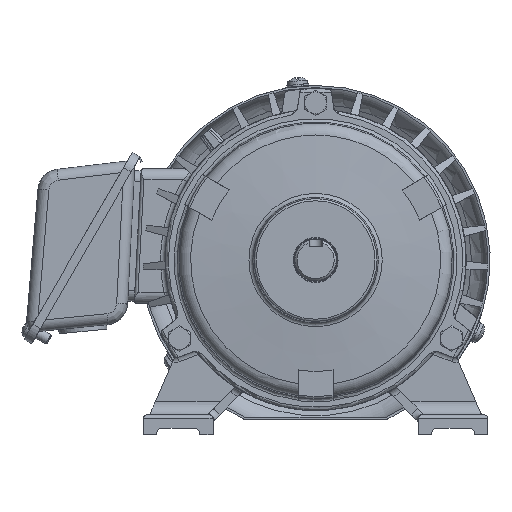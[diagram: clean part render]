
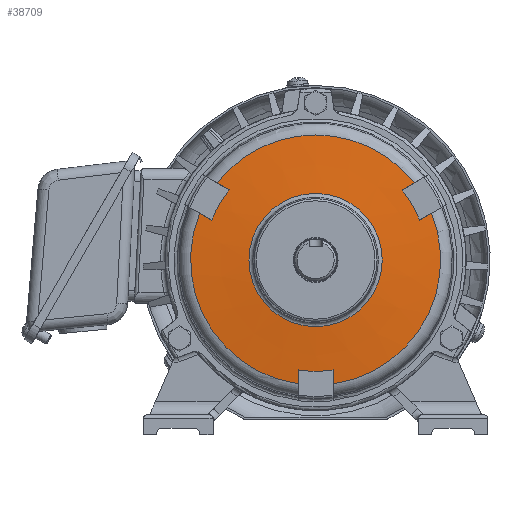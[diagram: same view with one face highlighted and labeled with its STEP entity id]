
A CAD part, front view. The second image highlights one B-rep face of the part: STEP entity #38709.
In plain terms, the highlighted conical face has half-angle 84.806 degrees and reference radius 62 mm.
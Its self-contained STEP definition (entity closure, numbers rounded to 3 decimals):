
#782=CONICAL_SURFACE('',#41251,62.,1.48);
#1971=B_SPLINE_CURVE_WITH_KNOTS('',3,(#59531,#59532,#59533,#59534),
 .UNSPECIFIED.,.F.,.F.,(4,4),(0.,1.),.PIECEWISE_BEZIER_KNOTS.);
#1972=B_SPLINE_CURVE_WITH_KNOTS('',3,(#59539,#59540,#59541,#59542),
 .UNSPECIFIED.,.F.,.F.,(4,4),(0.,1.),.PIECEWISE_BEZIER_KNOTS.);
#1973=B_SPLINE_CURVE_WITH_KNOTS('',3,(#59546,#59547,#59548,#59549),
 .UNSPECIFIED.,.F.,.F.,(4,4),(0.,1.),.PIECEWISE_BEZIER_KNOTS.);
#1974=B_SPLINE_CURVE_WITH_KNOTS('',3,(#59553,#59554,#59555,#59556),
 .UNSPECIFIED.,.F.,.F.,(4,4),(0.,1.),.PIECEWISE_BEZIER_KNOTS.);
#1975=B_SPLINE_CURVE_WITH_KNOTS('',3,(#59560,#59561,#59562,#59563),
 .UNSPECIFIED.,.F.,.F.,(4,4),(0.,1.),.PIECEWISE_BEZIER_KNOTS.);
#1976=B_SPLINE_CURVE_WITH_KNOTS('',3,(#59567,#59568,#59569,#59570),
 .UNSPECIFIED.,.F.,.F.,(4,4),(0.,1.),.PIECEWISE_BEZIER_KNOTS.);
#8893=ORIENTED_EDGE('',*,*,#18980,.T.);
#8894=ORIENTED_EDGE('',*,*,#18981,.F.);
#8895=ORIENTED_EDGE('',*,*,#18982,.T.);
#8896=ORIENTED_EDGE('',*,*,#18983,.F.);
#8897=ORIENTED_EDGE('',*,*,#18984,.F.);
#8898=ORIENTED_EDGE('',*,*,#18985,.F.);
#8899=ORIENTED_EDGE('',*,*,#18986,.T.);
#8900=ORIENTED_EDGE('',*,*,#18987,.F.);
#8901=ORIENTED_EDGE('',*,*,#18988,.F.);
#8902=ORIENTED_EDGE('',*,*,#18989,.F.);
#8903=ORIENTED_EDGE('',*,*,#18990,.T.);
#8904=ORIENTED_EDGE('',*,*,#18991,.F.);
#8905=ORIENTED_EDGE('',*,*,#18992,.F.);
#18980=EDGE_CURVE('',#24156,#24156,#27458,.T.);
#18981=EDGE_CURVE('',#24157,#24158,#1971,.T.);
#18982=EDGE_CURVE('',#24157,#24159,#27459,.T.);
#18983=EDGE_CURVE('',#24160,#24159,#1972,.T.);
#18984=EDGE_CURVE('',#24161,#24160,#27460,.T.);
#18985=EDGE_CURVE('',#24162,#24161,#1973,.T.);
#18986=EDGE_CURVE('',#24162,#24163,#27461,.T.);
#18987=EDGE_CURVE('',#24164,#24163,#1974,.T.);
#18988=EDGE_CURVE('',#24165,#24164,#27462,.T.);
#18989=EDGE_CURVE('',#24166,#24165,#1975,.T.);
#18990=EDGE_CURVE('',#24166,#24167,#27463,.T.);
#18991=EDGE_CURVE('',#24168,#24167,#1976,.T.);
#18992=EDGE_CURVE('',#24158,#24168,#27464,.T.);
#24156=VERTEX_POINT('',#59530);
#24157=VERTEX_POINT('',#59535);
#24158=VERTEX_POINT('',#59536);
#24159=VERTEX_POINT('',#59538);
#24160=VERTEX_POINT('',#59543);
#24161=VERTEX_POINT('',#59545);
#24162=VERTEX_POINT('',#59550);
#24163=VERTEX_POINT('',#59552);
#24164=VERTEX_POINT('',#59557);
#24165=VERTEX_POINT('',#59559);
#24166=VERTEX_POINT('',#59564);
#24167=VERTEX_POINT('',#59566);
#24168=VERTEX_POINT('',#59571);
#27458=CIRCLE('',#41252,30.538);
#27459=CIRCLE('',#41253,57.308);
#27460=CIRCLE('',#41254,51.);
#27461=CIRCLE('',#41255,57.308);
#27462=CIRCLE('',#41256,51.);
#27463=CIRCLE('',#41257,57.308);
#27464=CIRCLE('',#41258,51.);
#29488=EDGE_LOOP('',(#8893));
#29489=EDGE_LOOP('',(#8894,#8895,#8896,#8897,#8898,#8899,#8900,#8901,#8902,
#8903,#8904,#8905));
#32100=FACE_BOUND('',#29488,.T.);
#32101=FACE_BOUND('',#29489,.T.);
#38709=ADVANCED_FACE('',(#32100,#32101),#782,.T.);
#41251=AXIS2_PLACEMENT_3D('',#59528,#46117,#46118);
#41252=AXIS2_PLACEMENT_3D('',#59529,#46119,#46120);
#41253=AXIS2_PLACEMENT_3D('',#59537,#46121,#46122);
#41254=AXIS2_PLACEMENT_3D('',#59544,#46123,#46124);
#41255=AXIS2_PLACEMENT_3D('',#59551,#46125,#46126);
#41256=AXIS2_PLACEMENT_3D('',#59558,#46127,#46128);
#41257=AXIS2_PLACEMENT_3D('',#59565,#46129,#46130);
#41258=AXIS2_PLACEMENT_3D('',#59572,#46131,#46132);
#46117=DIRECTION('',(0.,1.,0.));
#46118=DIRECTION('',(0.,0.,1.));
#46119=DIRECTION('',(0.,1.,0.));
#46120=DIRECTION('',(0.,0.,1.));
#46121=DIRECTION('',(0.,-1.,0.));
#46122=DIRECTION('',(0.,0.,-1.));
#46123=DIRECTION('',(0.,1.,0.));
#46124=DIRECTION('',(0.,0.,1.));
#46125=DIRECTION('',(0.,-1.,0.));
#46126=DIRECTION('',(0.,0.,-1.));
#46127=DIRECTION('',(0.,1.,0.));
#46128=DIRECTION('',(-1.,0.,0.));
#46129=DIRECTION('',(0.,-1.,0.));
#46130=DIRECTION('',(0.,0.,-1.));
#46131=DIRECTION('',(0.,1.,0.));
#46132=DIRECTION('',(0.,0.,1.));
#59528=CARTESIAN_POINT('',(0.,9.,0.));
#59529=CARTESIAN_POINT('',(0.,6.14,0.));
#59530=CARTESIAN_POINT('',(0.,6.14,30.538));
#59531=CARTESIAN_POINT('',(-53.145,8.573,21.445));
#59532=CARTESIAN_POINT('',(-51.303,8.382,20.382));
#59533=CARTESIAN_POINT('',(-49.462,8.191,19.319));
#59534=CARTESIAN_POINT('',(-47.621,8.,18.256));
#59535=CARTESIAN_POINT('',(-53.145,8.573,21.445));
#59536=CARTESIAN_POINT('',(-47.621,8.,18.256));
#59537=CARTESIAN_POINT('',(0.,8.573,0.));
#59538=CARTESIAN_POINT('',(-8.,8.573,-56.747));
#59539=CARTESIAN_POINT('',(-8.,8.,-50.369));
#59540=CARTESIAN_POINT('',(-8.,8.191,-52.495));
#59541=CARTESIAN_POINT('',(-8.,8.382,-54.621));
#59542=CARTESIAN_POINT('',(-8.,8.573,-56.747));
#59543=CARTESIAN_POINT('',(-8.,8.,-50.369));
#59544=CARTESIAN_POINT('',(0.,8.,0.));
#59545=CARTESIAN_POINT('',(8.,8.,-50.369));
#59546=CARTESIAN_POINT('',(8.,8.573,-56.747));
#59547=CARTESIAN_POINT('',(8.,8.382,-54.621));
#59548=CARTESIAN_POINT('',(8.,8.191,-52.495));
#59549=CARTESIAN_POINT('',(8.,8.,-50.369));
#59550=CARTESIAN_POINT('',(8.,8.573,-56.747));
#59551=CARTESIAN_POINT('',(0.,8.573,0.));
#59552=CARTESIAN_POINT('',(53.145,8.573,21.445));
#59553=CARTESIAN_POINT('',(47.621,8.,18.256));
#59554=CARTESIAN_POINT('',(49.462,8.191,19.319));
#59555=CARTESIAN_POINT('',(51.303,8.382,20.382));
#59556=CARTESIAN_POINT('',(53.145,8.573,21.445));
#59557=CARTESIAN_POINT('',(47.621,8.,18.256));
#59558=CARTESIAN_POINT('',(0.,8.,0.));
#59559=CARTESIAN_POINT('',(39.621,8.,32.113));
#59560=CARTESIAN_POINT('',(45.145,8.573,35.302));
#59561=CARTESIAN_POINT('',(43.303,8.382,34.239));
#59562=CARTESIAN_POINT('',(41.462,8.191,33.176));
#59563=CARTESIAN_POINT('',(39.621,8.,32.113));
#59564=CARTESIAN_POINT('',(45.145,8.573,35.302));
#59565=CARTESIAN_POINT('',(0.,8.573,0.));
#59566=CARTESIAN_POINT('',(-45.145,8.573,35.302));
#59567=CARTESIAN_POINT('',(-39.621,8.,32.113));
#59568=CARTESIAN_POINT('',(-41.462,8.191,33.176));
#59569=CARTESIAN_POINT('',(-43.303,8.382,34.239));
#59570=CARTESIAN_POINT('',(-45.145,8.573,35.302));
#59571=CARTESIAN_POINT('',(-39.621,8.,32.113));
#59572=CARTESIAN_POINT('',(0.,8.,0.));
